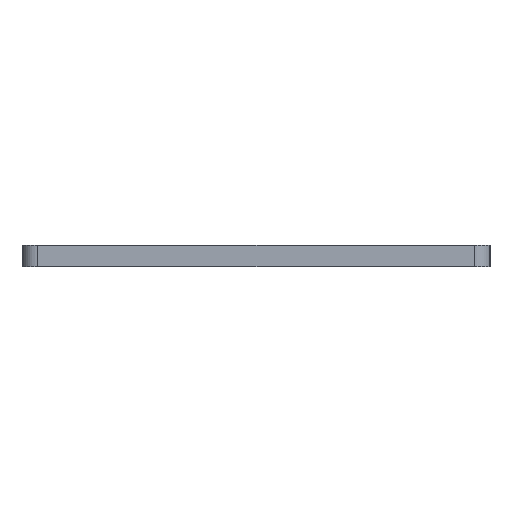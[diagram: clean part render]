
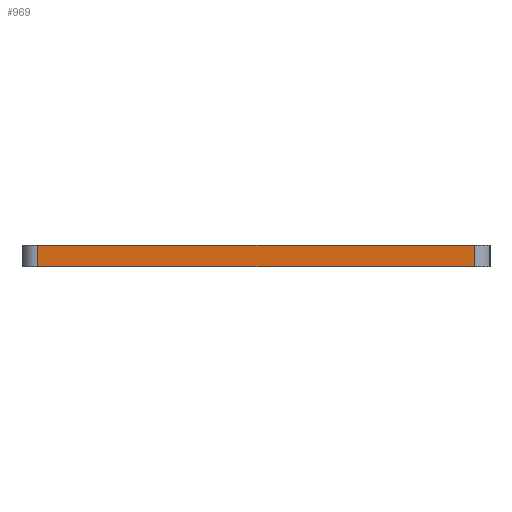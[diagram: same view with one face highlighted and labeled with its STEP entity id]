
A CAD part, left-side view. The second image highlights one B-rep face of the part: STEP entity #969.
In plain terms, the highlighted planar face has unit normal (-1, 0, 0).
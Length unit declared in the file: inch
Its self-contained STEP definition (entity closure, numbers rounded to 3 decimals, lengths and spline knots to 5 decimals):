
#33=DIRECTION('',(0.,-1.,0.));
#34=VECTOR('',#33,3.23378);
#35=CARTESIAN_POINT('',(-9.,1.61689,0.));
#36=LINE('',#35,#34);
#189=DIRECTION('',(0.,0.,1.));
#190=VECTOR('',#189,0.15748);
#191=CARTESIAN_POINT('',(-9.,1.61689,-0.15748));
#192=LINE('',#191,#190);
#193=DIRECTION('',(0.,0.,1.));
#194=VECTOR('',#193,0.15748);
#195=CARTESIAN_POINT('',(-9.,-1.61689,-0.15748));
#196=LINE('',#195,#194);
#226=DIRECTION('',(0.,-1.,0.));
#227=VECTOR('',#226,3.23378);
#228=CARTESIAN_POINT('',(-9.,1.61689,-0.15748));
#229=LINE('',#228,#227);
#726=CARTESIAN_POINT('',(-9.,1.61689,0.));
#728=VERTEX_POINT('',#726);
#729=CARTESIAN_POINT('',(-9.,1.61689,-0.15748));
#730=VERTEX_POINT('',#729);
#733=CARTESIAN_POINT('',(-9.,-1.61689,0.));
#735=VERTEX_POINT('',#733);
#739=CARTESIAN_POINT('',(-9.,-1.61689,-0.15748));
#740=VERTEX_POINT('',#739);
#956=CARTESIAN_POINT('',(-9.,0.,-0.07874));
#957=DIRECTION('',(-1.,0.,0.));
#958=DIRECTION('',(0.,-1.,0.));
#959=AXIS2_PLACEMENT_3D('',#956,#957,#958);
#960=PLANE('',#959);
#961=ORIENTED_EDGE('',*,*,#947,.T.);
#962=ORIENTED_EDGE('',*,*,#848,.T.);
#964=ORIENTED_EDGE('',*,*,#963,.F.);
#966=ORIENTED_EDGE('',*,*,#965,.F.);
#967=EDGE_LOOP('',(#961,#962,#964,#966));
#968=FACE_OUTER_BOUND('',#967,.F.);
#969=ADVANCED_FACE('',(#968),#960,.T.);
#848=EDGE_CURVE('',#728,#735,#36,.T.);
#947=EDGE_CURVE('',#730,#728,#192,.T.);
#963=EDGE_CURVE('',#740,#735,#196,.T.);
#965=EDGE_CURVE('',#730,#740,#229,.T.);
